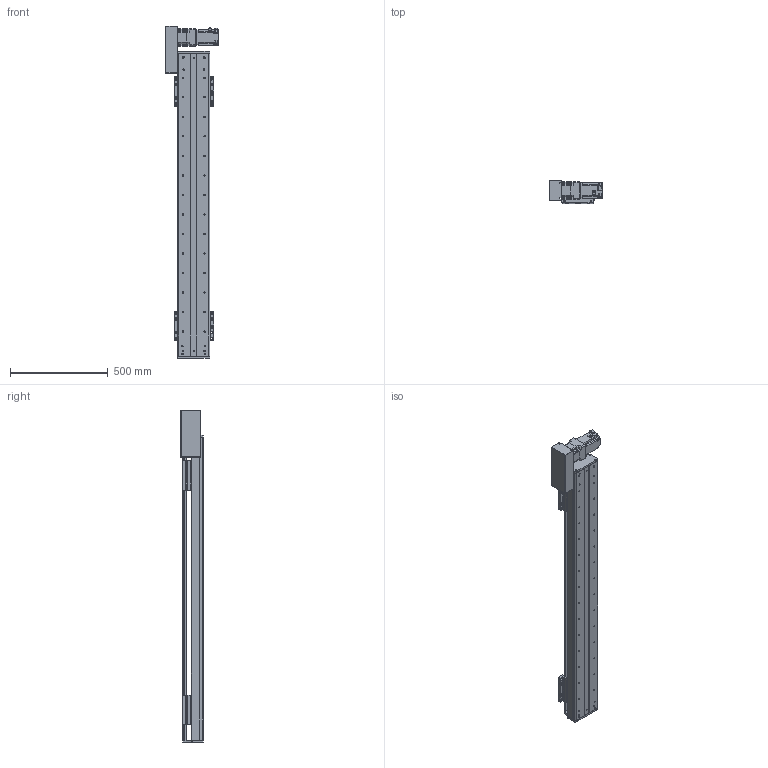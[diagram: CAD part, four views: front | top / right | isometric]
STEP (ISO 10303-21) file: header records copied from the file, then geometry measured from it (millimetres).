
FILE_DESCRIPTION(/* description */ (''),/* implementation_level */ '2;1');
FILE_NAME(/* name */ 'C:\Users\PC\Desktop\3D도면\STEP\DSB165-L7G-W1200-R.stp',/* time_stamp */ '2018-06-25T14:33:02+09:00',/* author */ ('PC'),/* organization */ (''),/* preprocessor_version */ 'ST-DEVELOPER v16.5',/* originating_system */ 'Autodesk Inventor 2017',/* authorisation */ '');
FILE_SCHEMA (('AUTOMOTIVE_DESIGN { 1 0 10303 214 3 1 1 }'));
Length unit declared in the file: millimetre
Products named in the file (12): DSB165-L; DSR165-BASE_S; hg-kr73_; ab0901-p0401300102; 11-DBS165 BELT COVER; DBS165-COVER; DBS165-COVER_1; DBS165-UP COVER; DBS165-TABLE(MSA20S); DSR126-SENSOR DOG; pm-y65_step; SENSOR BRACKET(EE-SX674A)
Assembly tree (16 placements, depth 2):
  DSB165-L
    DSR165-BASE_S
    hg-kr73_
    ab0901-p0401300102
    11-DBS165 BELT COVER
    DBS165-COVER
    DBS165-COVER_1
    DBS165-UP COVER
    DBS165-TABLE(MSA20S)  x2
    DSR126-SENSOR DOG
    pm-y65_step  x3
    SENSOR BRACKET(EE-SX674A)  x3
Bounding box: 270 x 115 x 1700 mm (x, y, z)
Volume: 9781234.1 mm3; surface area: 2271480.1 mm2
Topology: 17 solids, 22 shells, 1687 faces, 4525 edges, 2982 vertices
Faces by surface type: plane 926, cylinder 629, cone 120, sphere 8, torus 4
Full cylindrical faces by diameter (mm): 2.459 x20, 3.5 x6, 4.134 x42, 4.5 x18, 5 x27, 5.5 x36, 5.9 x4, 6 x8, 6.6 x14, 6.647 x48, 6.8 x1, 7 x4, 7.6 x4, 8 x1, 8.4 x1, 8.5 x24, 8.7 x1, 9.5 x32, 11 x6, 14 x16, 19 x1, 22 x1, 24 x1, 25 x1, 28 x1, 67 x1, 70 x2, 80 x1
Entity records: 35869 total; most frequent: DIRECTION 6348, CARTESIAN_POINT 6139, ORIENTED_EDGE 5574, EDGE_CURVE 2792, AXIS2_PLACEMENT_3D 2344, VERTEX_POINT 1997, EDGE_LOOP 1771, LINE 1660
